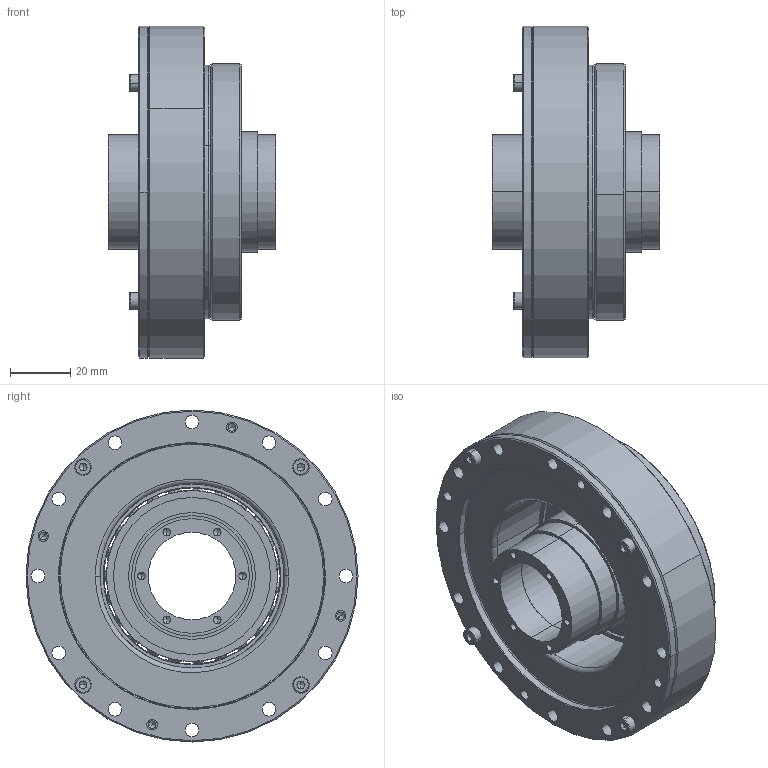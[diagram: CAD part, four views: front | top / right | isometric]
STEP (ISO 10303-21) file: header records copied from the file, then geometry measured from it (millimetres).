
FILE_DESCRIPTION (( 'STEP AP203' ), '1' );
FILE_NAME ('LHS-25-XXX-C-III-ST.step', '2025-01-07T06:18:54', ( '' ), ( '' ), 'SwSTEP 2.0', 'SolidWorks 2023', '' );
FILE_SCHEMA (( 'CONFIG_CONTROL_DESIGN' ));
Length unit declared in the file: metre
Products named in the file (1): LHS-25-XXX-C-III-ST
Bounding box: 55.5 x 110 x 110 mm (x, y, z)
Volume: 173040.3 mm3; surface area: 118054.4 mm2
Topology: 41 solids, 41 shells, 851 faces, 2080 edges, 1212 vertices
Faces by surface type: cylinder 366, plane 213, cone 144, bspline 128
Entity records: 27632 total; most frequent: CARTESIAN_POINT 8054, DIRECTION 4372, ORIENTED_EDGE 3808, EDGE_CURVE 1904, AXIS2_PLACEMENT_3D 1812, VERTEX_POINT 1212, CIRCLE 1088, EDGE_LOOP 1060
